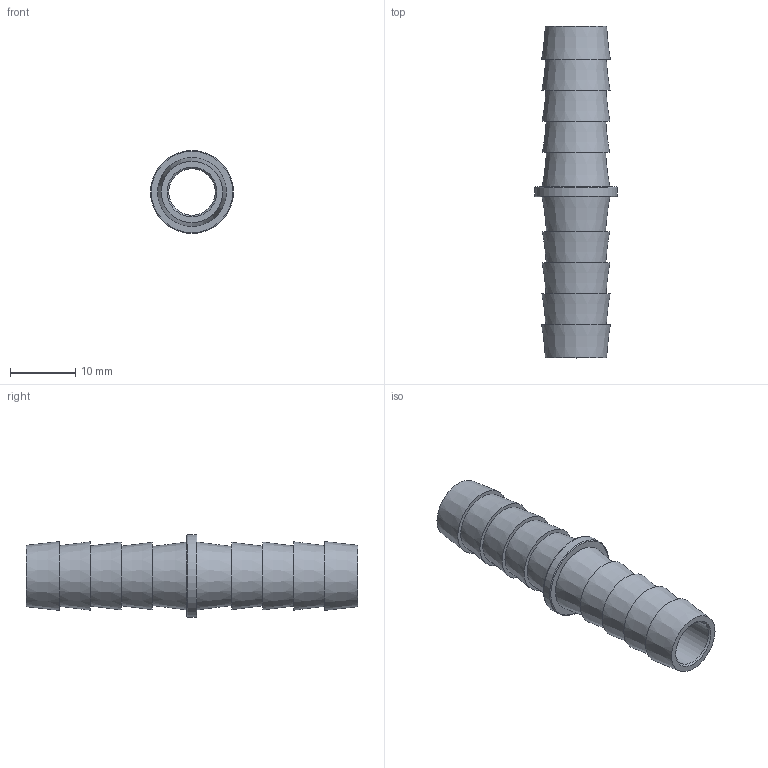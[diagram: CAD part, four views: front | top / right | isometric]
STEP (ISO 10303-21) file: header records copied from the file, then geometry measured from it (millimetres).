
FILE_DESCRIPTION(/* description */ (''),/* implementation_level */ '2;1');
FILE_NAME(/* name */ 'C:/Users/drich/Desktop/HS-38 v1.step',/* time_stamp */ '2020-02-09T10:52:20-06:00',/* author */ (''),/* organization */ (''),/* preprocessor_version */ 'ST-DEVELOPER v18',/* originating_system */ 'Autodesk Translation Framework v8.12.0.6',/* authorisation */ '');
FILE_SCHEMA (('AUTOMOTIVE_DESIGN { 1 0 10303 214 3 1 1 }'));
Length unit declared in the file: inch
Products named in the file (2): HS-38; 38 BARB ONLY
Assembly tree (2 placements, depth 2):
  HS-38
    38 BARB ONLY  x2
Bounding box: 12.7 x 50.82 x 12.7 mm (x, y, z)
Volume: 1901.9 mm3; surface area: 3194.8 mm2
Topology: 3 solids, 3 shells, 32 faces, 82 edges, 62 vertices
Faces by surface type: cone 14, plane 12, cylinder 4, torus 2
Full cylindrical faces by diameter (mm): 7.112 x3, 12.7 x1
Entity records: 705 total; most frequent: DIRECTION 134, CARTESIAN_POINT 109, ORIENTED_EDGE 98, AXIS2_PLACEMENT_3D 62, EDGE_CURVE 49, CIRCLE 39, VERTEX_POINT 37, EDGE_LOOP 26
